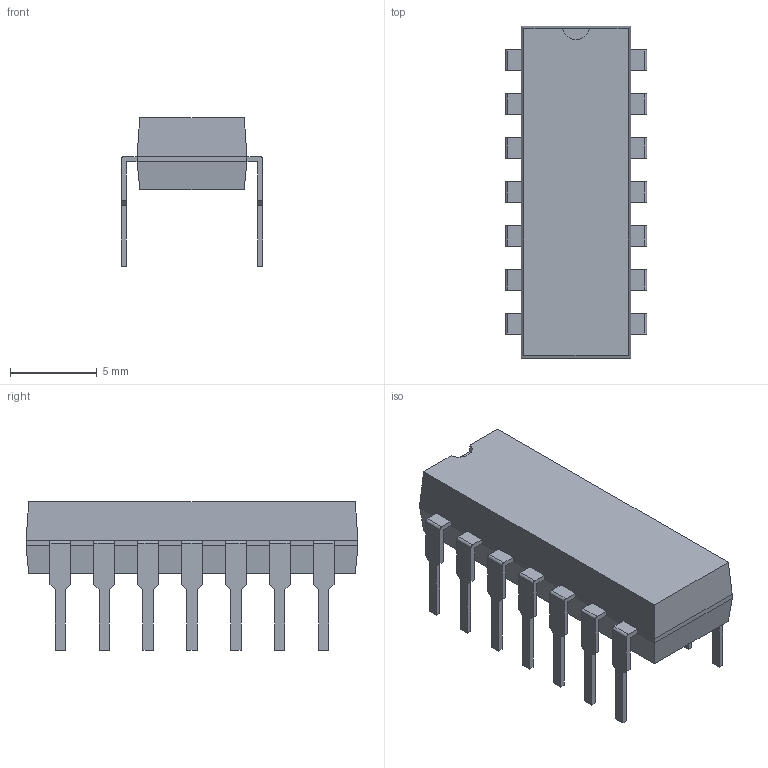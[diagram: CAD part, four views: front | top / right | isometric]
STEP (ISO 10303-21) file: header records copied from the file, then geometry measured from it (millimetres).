
FILE_DESCRIPTION(('FreeCAD Model'),'2;1');
FILE_NAME('/var/www/3D/0T/1815878.1.1.stp','2021-11-02T15:18:22',( 'Author'),(''),'Open CASCADE STEP processor 6.9','FreeCAD','Unknown' );
FILE_SCHEMA(('AUTOMOTIVE_DESIGN { 1 0 10303 214 1 1 1 1 }'));
Length unit declared in the file: millimetre
Products named in the file (3): ASSEMBLY; Body; PinsArrayLR
Assembly tree (2 placements, depth 2):
  ASSEMBLY
    Body
    PinsArrayLR
Bounding box: 8.17 x 19.18 x 8.58 mm (x, y, z)
Volume: 515.8 mm3; surface area: 670.3 mm2
Topology: 15 solids, 15 shells, 198 faces, 496 edges, 328 vertices
Faces by surface type: plane 183, cylinder 15
Entity records: 12465 total; most frequent: CARTESIAN_POINT 2119, DIRECTION 1904, LINE 1420, VECTOR 1420, ORIENTED_EDGE 992, PCURVE 992, DEFINITIONAL_REPRESENTATION 992, EDGE_CURVE 496
